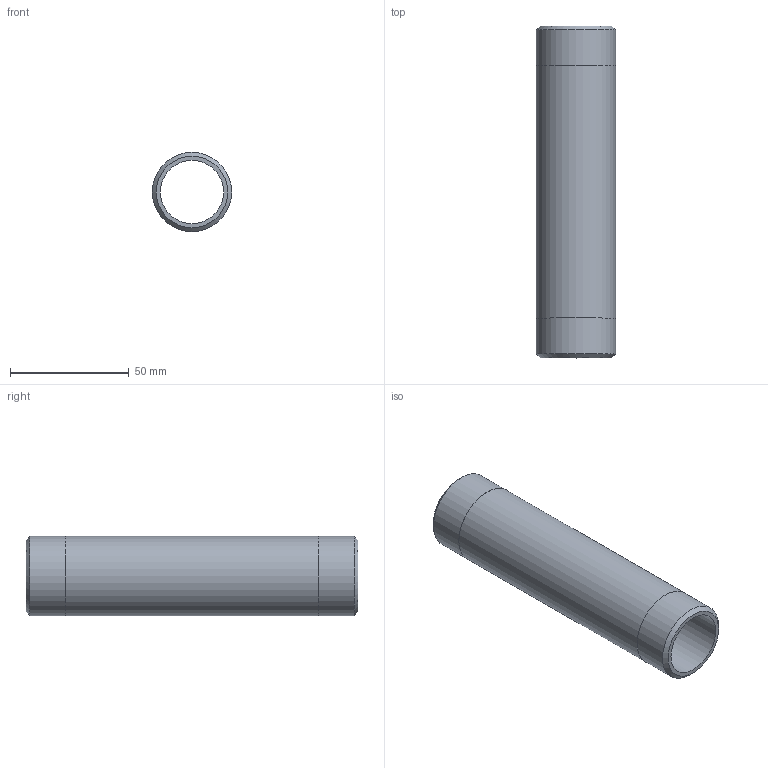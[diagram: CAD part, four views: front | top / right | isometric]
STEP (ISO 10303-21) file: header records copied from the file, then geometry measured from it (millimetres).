
FILE_DESCRIPTION(/* description */ (''),/* implementation_level */ '2;1');
FILE_NAME(/* name */ 'C:/Users/drich/Desktop/BPN1-5-1_2 v1.step',/* time_stamp */ '2020-01-03T14:16:13-06:00',/* author */ (''),/* organization */ (''),/* preprocessor_version */ 'ST-DEVELOPER v18',/* originating_system */ 'Autodesk Translation Framework v8.12.0.6',/* authorisation */ '');
FILE_SCHEMA (('AUTOMOTIVE_DESIGN { 1 0 10303 214 3 1 1 }'));
Length unit declared in the file: inch
Products named in the file (1): BPN1-5-1_2
Bounding box: 33.4 x 139.7 x 33.4 mm (x, y, z)
Volume: 44147 mm3; surface area: 26775 mm2
Topology: 1 solids, 1 shells, 10 faces, 24 edges, 18 vertices
Faces by surface type: cylinder 4, plane 4, cone 2
Full cylindrical faces by diameter (mm): 26.645 x1, 33.35 x2, 33.401 x1
Entity records: 360 total; most frequent: DIRECTION 64, CARTESIAN_POINT 53, ORIENTED_EDGE 48, AXIS2_PLACEMENT_3D 29, EDGE_CURVE 24, CIRCLE 18, VERTEX_POINT 18, EDGE_LOOP 14
